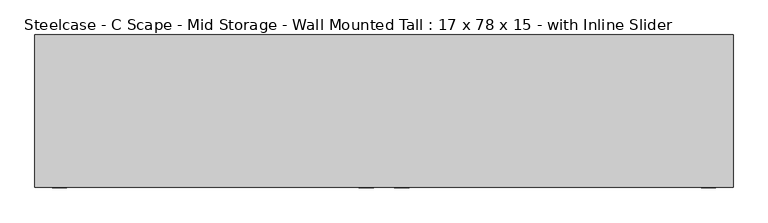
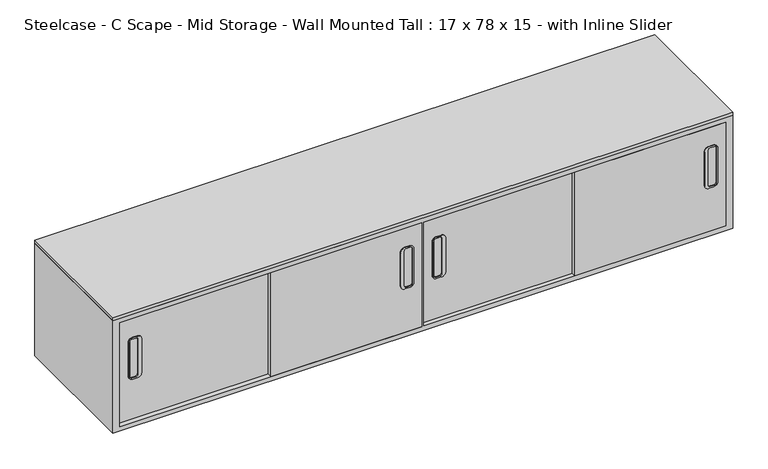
"""IFC4 building model written with IfcOpenShell, lengths in millimetres: furniture geometry, Steelcase - C Scape - Mid Storage - Wall Mounted Tall : 17 x 78 x 15 - with Inline Slider."""

from ifc_helpers import new_model, si_unit, point, frame, frame_2d, origin, place, context, project, spatial, polyline, circle_curve, trimmed, segment, composite_curve, outline, extrude, faceted_brep, source, transform, mapped, element, save


def steelcase_c_scape_mid_storage_wall_mounted_tall_17_x_78_x_15_fe53f72d(model_context):
    return source(origin(), model_context, "Body", "SolidModel", [
        extrude(outline(polyline([(1981.2, 215.9), (1981.2, -215.9), (0.0, -215.9), (0.0, 215.9), (1981.2, 215.9)])), frame((0.0, 0.0, 1219.2), z_axis=(0.0, 0.0, 1.0), x_axis=(1.0, 0.0, 0.0)), (0.0, 0.0, 1.0), 10.16),
        extrude(outline(composite_curve([segment(trimmed(circle_curve(frame_2d((1127.3282327, 1918.8177615)), 13.716), [point((1127.3282327, 1932.5337615))], [point((1141.0442327, 1918.8177615))], False, "CARTESIAN"), True, "CONTINUOUS"), segment(polyline([(1141.0442327, 1918.8177615), (1141.0442327, 1903.8701355)]), True, "CONTINUOUS"), segment(trimmed(circle_curve(frame_2d((1127.4168582, 1903.8701355)), 13.6273746), [point((1141.0442327, 1903.8701355))], [point((1127.4168582, 1890.2427609))], False, "CARTESIAN"), True, "CONTINUOUS"), segment(polyline([(1127.4168582, 1890.2427609), (1015.0601843, 1890.2427609)]), True, "CONTINUOUS"), segment(trimmed(circle_curve(frame_2d((1015.0601843, 1903.9587609)), 13.716), [point((1015.0601843, 1890.2427609))], [point((1001.3441843, 1903.9587609))], False, "CARTESIAN"), True, "CONTINUOUS"), segment(polyline([(1001.3441843, 1903.9587609), (1001.3441843, 1918.8177615)]), True, "CONTINUOUS"), segment(trimmed(circle_curve(frame_2d((1015.0601843, 1918.8177615)), 13.716), [point((1001.3441843, 1918.8177615))], [point((1015.0601843, 1932.5337615))], False, "CARTESIAN"), True, "CONTINUOUS"), segment(polyline([(1015.0601843, 1932.5337615), (1127.3282327, 1932.5337615)]), True, "CONTINUOUS")], self_intersect=False), holes=[composite_curve([segment(trimmed(circle_curve(frame_2d((1012.5201979, 1921.3577615)), 6.35), [point((1012.5201979, 1927.7077615))], [point((1006.1701979, 1921.3577615))], True, "CARTESIAN"), True, "CONTINUOUS"), segment(polyline([(1006.1701979, 1921.3577615), (1006.1701979, 1908.6577676)]), True, "CONTINUOUS"), segment(trimmed(circle_curve(frame_2d((1012.5201979, 1908.6577676)), 6.35), [point((1006.1701979, 1908.6577676))], [point((1012.5201979, 1902.3077676))], True, "CARTESIAN"), True, "CONTINUOUS"), segment(polyline([(1012.5201979, 1902.3077676), (1129.8682192, 1902.3077676)]), True, "CONTINUOUS"), segment(trimmed(circle_curve(frame_2d((1129.8682192, 1908.6577676)), 6.35), [point((1129.8682192, 1902.3077676))], [point((1136.2182192, 1908.6577676))], True, "CARTESIAN"), True, "CONTINUOUS"), segment(polyline([(1136.2182192, 1908.6577676), (1136.2182192, 1921.3577615)]), True, "CONTINUOUS"), segment(trimmed(circle_curve(frame_2d((1129.8682192, 1921.3577615)), 6.35), [point((1136.2182192, 1921.3577615))], [point((1129.8682192, 1927.7077615))], True, "CARTESIAN"), True, "CONTINUOUS"), segment(polyline([(1129.8682192, 1927.7077615), (1012.5201979, 1927.7077615)]), True, "CONTINUOUS")], self_intersect=False)]), frame((0.0, -218.44, 0.0), z_axis=(0.0, 1.0, 0.0), x_axis=(0.0, 0.0, 1.0)), (0.0, 0.0, 1.0), 2.54),
        extrude(outline(composite_curve([segment(polyline([(1127.3282327, 1020.3432385), (1015.0601843, 1020.3432385)]), True, "CONTINUOUS"), segment(trimmed(circle_curve(frame_2d((1015.0601843, 1034.0592385)), 13.716), [point((1015.0601843, 1020.3432385))], [point((1001.3441843, 1034.0592385))], False, "CARTESIAN"), True, "CONTINUOUS"), segment(polyline([(1001.3441843, 1034.0592385), (1001.3441843, 1048.9182391)]), True, "CONTINUOUS"), segment(trimmed(circle_curve(frame_2d((1015.0601843, 1048.9182391)), 13.716), [point((1001.3441843, 1048.9182391))], [point((1015.0601843, 1062.6342391))], False, "CARTESIAN"), True, "CONTINUOUS"), segment(polyline([(1015.0601843, 1062.6342391), (1127.4168582, 1062.6342391)]), True, "CONTINUOUS"), segment(trimmed(circle_curve(frame_2d((1127.4168582, 1049.0068645)), 13.6273746), [point((1127.4168582, 1062.6342391))], [point((1141.0442327, 1049.0068645))], False, "CARTESIAN"), True, "CONTINUOUS"), segment(polyline([(1141.0442327, 1049.0068645), (1141.0442327, 1034.0592385)]), True, "CONTINUOUS"), segment(trimmed(circle_curve(frame_2d((1127.3282327, 1034.0592385)), 13.716), [point((1141.0442327, 1034.0592385))], [point((1127.3282327, 1020.3432385))], False, "CARTESIAN"), True, "CONTINUOUS")], self_intersect=False), holes=[composite_curve([segment(polyline([(1012.5201979, 1025.1692385), (1129.8682192, 1025.1692385)]), True, "CONTINUOUS"), segment(trimmed(circle_curve(frame_2d((1129.8682192, 1031.5192385)), 6.35), [point((1129.8682192, 1025.1692385))], [point((1136.2182192, 1031.5192385))], True, "CARTESIAN"), True, "CONTINUOUS"), segment(polyline([(1136.2182192, 1031.5192385), (1136.2182192, 1044.2192324)]), True, "CONTINUOUS"), segment(trimmed(circle_curve(frame_2d((1129.8682192, 1044.2192324)), 6.35), [point((1136.2182192, 1044.2192324))], [point((1129.8682192, 1050.5692324))], True, "CARTESIAN"), True, "CONTINUOUS"), segment(polyline([(1129.8682192, 1050.5692324), (1012.5201979, 1050.5692324)]), True, "CONTINUOUS"), segment(trimmed(circle_curve(frame_2d((1012.5201979, 1044.2192324)), 6.35), [point((1012.5201979, 1050.5692324))], [point((1006.1701979, 1044.2192324))], True, "CARTESIAN"), True, "CONTINUOUS"), segment(polyline([(1006.1701979, 1044.2192324), (1006.1701979, 1031.5192385)]), True, "CONTINUOUS"), segment(trimmed(circle_curve(frame_2d((1012.5201979, 1031.5192385)), 6.35), [point((1006.1701979, 1031.5192385))], [point((1012.5201979, 1025.1692385))], True, "CARTESIAN"), True, "CONTINUOUS")], self_intersect=False)]), frame((0.0, -218.44, 0.0), z_axis=(0.0, 1.0, 0.0), x_axis=(0.0, 0.0, 1.0)), (0.0, 0.0, 1.0), 2.54),
        extrude(outline(composite_curve([segment(trimmed(circle_curve(frame_2d((1127.3282327, 947.1407615)), 13.716), [point((1127.3282327, 960.8567615))], [point((1141.0442327, 947.1407615))], False, "CARTESIAN"), True, "CONTINUOUS"), segment(polyline([(1141.0442327, 947.1407615), (1141.0442327, 932.1931355)]), True, "CONTINUOUS"), segment(trimmed(circle_curve(frame_2d((1127.4168582, 932.1931355)), 13.6273746), [point((1141.0442327, 932.1931355))], [point((1127.4168582, 918.5657609))], False, "CARTESIAN"), True, "CONTINUOUS"), segment(polyline([(1127.4168582, 918.5657609), (1015.0601843, 918.5657609)]), True, "CONTINUOUS"), segment(trimmed(circle_curve(frame_2d((1015.0601843, 932.2817609)), 13.716), [point((1015.0601843, 918.5657609))], [point((1001.3441843, 932.2817609))], False, "CARTESIAN"), True, "CONTINUOUS"), segment(polyline([(1001.3441843, 932.2817609), (1001.3441843, 947.1407615)]), True, "CONTINUOUS"), segment(trimmed(circle_curve(frame_2d((1015.0601843, 947.1407615)), 13.716), [point((1001.3441843, 947.1407615))], [point((1015.0601843, 960.8567615))], False, "CARTESIAN"), True, "CONTINUOUS"), segment(polyline([(1015.0601843, 960.8567615), (1127.3282327, 960.8567615)]), True, "CONTINUOUS")], self_intersect=False), holes=[composite_curve([segment(trimmed(circle_curve(frame_2d((1012.5201979, 949.6807615)), 6.35), [point((1012.5201979, 956.0307615))], [point((1006.1701979, 949.6807615))], True, "CARTESIAN"), True, "CONTINUOUS"), segment(polyline([(1006.1701979, 949.6807615), (1006.1701979, 936.9807676)]), True, "CONTINUOUS"), segment(trimmed(circle_curve(frame_2d((1012.5201979, 936.9807676)), 6.35), [point((1006.1701979, 936.9807676))], [point((1012.5201979, 930.6307676))], True, "CARTESIAN"), True, "CONTINUOUS"), segment(polyline([(1012.5201979, 930.6307676), (1129.8682192, 930.6307676)]), True, "CONTINUOUS"), segment(trimmed(circle_curve(frame_2d((1129.8682192, 936.9807676)), 6.35), [point((1129.8682192, 930.6307676))], [point((1136.2182192, 936.9807676))], True, "CARTESIAN"), True, "CONTINUOUS"), segment(polyline([(1136.2182192, 936.9807676), (1136.2182192, 949.6807615)]), True, "CONTINUOUS"), segment(trimmed(circle_curve(frame_2d((1129.8682192, 949.6807615)), 6.35), [point((1136.2182192, 949.6807615))], [point((1129.8682192, 956.0307615))], True, "CARTESIAN"), True, "CONTINUOUS"), segment(polyline([(1129.8682192, 956.0307615), (1012.5201979, 956.0307615)]), True, "CONTINUOUS")], self_intersect=False)]), frame((0.0, -218.44, 0.0), z_axis=(0.0, 1.0, 0.0), x_axis=(0.0, 0.0, 1.0)), (0.0, 0.0, 1.0), 2.54),
        extrude(outline(composite_curve([segment(polyline([(1127.3282327, 48.5394019), (1015.0601843, 48.5394019)]), True, "CONTINUOUS"), segment(trimmed(circle_curve(frame_2d((1015.0601843, 62.2554019)), 13.716), [point((1015.0601843, 48.5394019))], [point((1001.3441843, 62.2554019))], False, "CARTESIAN"), True, "CONTINUOUS"), segment(polyline([(1001.3441843, 62.2554019), (1001.3441843, 77.1144024)]), True, "CONTINUOUS"), segment(trimmed(circle_curve(frame_2d((1015.0601843, 77.1144024)), 13.716), [point((1001.3441843, 77.1144024))], [point((1015.0601843, 90.8304024))], False, "CARTESIAN"), True, "CONTINUOUS"), segment(polyline([(1015.0601843, 90.8304024), (1127.4168582, 90.8304024)]), True, "CONTINUOUS"), segment(trimmed(circle_curve(frame_2d((1127.4168582, 77.2030278)), 13.6273746), [point((1127.4168582, 90.8304024))], [point((1141.0442327, 77.2030278))], False, "CARTESIAN"), True, "CONTINUOUS"), segment(polyline([(1141.0442327, 77.2030278), (1141.0442327, 62.2554019)]), True, "CONTINUOUS"), segment(trimmed(circle_curve(frame_2d((1127.3282327, 62.2554019)), 13.716), [point((1141.0442327, 62.2554019))], [point((1127.3282327, 48.5394019))], False, "CARTESIAN"), True, "CONTINUOUS")], self_intersect=False), holes=[composite_curve([segment(polyline([(1012.5201979, 53.3654018), (1129.8682192, 53.3654018)]), True, "CONTINUOUS"), segment(trimmed(circle_curve(frame_2d((1129.8682192, 59.7154018)), 6.35), [point((1129.8682192, 53.3654018))], [point((1136.2182192, 59.7154018))], True, "CARTESIAN"), True, "CONTINUOUS"), segment(polyline([(1136.2182192, 59.7154018), (1136.2182192, 72.4153957)]), True, "CONTINUOUS"), segment(trimmed(circle_curve(frame_2d((1129.8682192, 72.4153957)), 6.35), [point((1136.2182192, 72.4153957))], [point((1129.8682192, 78.7653957))], True, "CARTESIAN"), True, "CONTINUOUS"), segment(polyline([(1129.8682192, 78.7653957), (1012.5201979, 78.7653957)]), True, "CONTINUOUS"), segment(trimmed(circle_curve(frame_2d((1012.5201979, 72.4153957)), 6.35), [point((1012.5201979, 78.7653957))], [point((1006.1701979, 72.4153957))], True, "CARTESIAN"), True, "CONTINUOUS"), segment(polyline([(1006.1701979, 72.4153957), (1006.1701979, 59.7154018)]), True, "CONTINUOUS"), segment(trimmed(circle_curve(frame_2d((1012.5201979, 59.7154018)), 6.35), [point((1006.1701979, 59.7154018))], [point((1012.5201979, 53.3654018))], True, "CARTESIAN"), True, "CONTINUOUS")], self_intersect=False)]), frame((0.0, -218.44, 0.0), z_axis=(0.0, 1.0, 0.0), x_axis=(0.0, 0.0, 1.0)), (0.0, 0.0, 1.0), 2.54),
        extrude(outline(polyline([(504.6980817, -201.5235519), (21.9711633, -201.5235519), (21.9711633, -187.1471039), (504.6980817, -187.1471039), (504.6980817, -201.5235519)])), frame((0.0, 0.0, 853.4399855), z_axis=(0.0, 0.0, 1.0), x_axis=(1.0, 0.0, 0.0)), (0.0, 0.0, 1.0), 350.5200145),
        extrude(outline(polyline([(987.425, -215.9), (504.6980817, -215.9), (504.6980817, -201.5235519), (987.425, -201.5235519), (987.425, -215.9)])), frame((0.0, 0.0, 853.4399855), z_axis=(0.0, 0.0, 1.0), x_axis=(1.0, 0.0, 0.0)), (0.0, 0.0, 1.0), 350.5200145),
        extrude(outline(polyline([(1959.102, -215.9), (1476.4385, -215.9), (1476.4385, -201.5235519), (1959.102, -201.5235519), (1959.102, -215.9)])), frame((0.0, 0.0, 853.4399855), z_axis=(0.0, 0.0, 1.0), x_axis=(1.0, 0.0, 0.0)), (0.0, 0.0, 1.0), 350.5200145),
        extrude(outline(polyline([(1476.4385, -201.5235519), (993.775, -201.5235519), (993.775, -187.1471039), (1476.4385, -187.1471039), (1476.4385, -201.5235519)])), frame((0.0, 0.0, 853.4399855), z_axis=(0.0, 0.0, 1.0), x_axis=(1.0, 0.0, 0.0)), (0.0, 0.0, 1.0), 350.5200145),
        faceted_brep([(0.0, -215.9, 1219.2), (0.0, -215.9, 838.2), (1981.2, -215.9, 838.2), (1981.2, -215.9, 1219.2), (21.9711633, -215.9, 1203.96), (987.425, -215.9, 1203.96), (987.425, -215.9, 853.4399855), (21.9711633, -215.9, 853.4399855), (1959.102, -215.9, 1203.96), (1959.102, -215.9, 853.4399855), (993.775, -215.9, 853.4399855), (993.775, -215.9, 1203.96), (1981.2, 215.9, 1219.2), (1981.2, 215.9, 838.2), (0.0, 215.9, 838.2), (0.0, 215.9, 1219.2), (1959.102, 206.3755809, 1203.96), (1959.102, 206.3755809, 853.4399855), (987.425, 206.3755809, 853.4399855), (21.9711633, 206.3755809, 853.4399855), (993.775, 206.3755809, 853.4399855), (21.9711633, 206.3755809, 1203.96), (987.425, 206.3755809, 1203.96), (993.775, 206.3755809, 1203.96)], [[[0, 1, 2, 3], [4, 5, 6, 7], [8, 9, 10, 11]], [[12, 13, 14, 15]], [[0, 3, 12, 15]], [[1, 0, 15, 14]], [[2, 1, 14, 13]], [[3, 2, 13, 12]], [[9, 8, 16, 17]], [[7, 6, 18, 19]], [[10, 9, 17, 20]], [[4, 7, 19, 21]], [[5, 4, 21, 22]], [[8, 11, 23, 16]], [[18, 22, 21, 19]], [[6, 5, 22, 18]], [[11, 10, 20, 23]], [[23, 20, 17, 16]]]),
    ])


if __name__ == "__main__":
    model = new_model("IFC4")
    model_context = context("Model", 3, world=origin())
    ifc_project = project(units=[si_unit("LENGTHUNIT", "METRE", prefix="MILLI")], contexts=[model_context])
    site = spatial("IfcSite", under=ifc_project)
    building = spatial("IfcBuilding", under=site)
    placement = place(None, origin())
    steelcase_c_scape_mid_storage_wall_mounted_tall_17_x_78_x_15_shape = steelcase_c_scape_mid_storage_wall_mounted_tall_17_x_78_x_15_fe53f72d(model_context)
    element("IfcFurniture", 1, ObjectType="Steelcase - C Scape - Mid Storage - Wall Mounted Tall : 17 x 78 x 15 - with Inline Slider", at=placement, inside=building, context=model_context, shape_type="MappedRepresentation", body=[
        mapped(steelcase_c_scape_mid_storage_wall_mounted_tall_17_x_78_x_15_shape, transform((0.0, 0.0, 0.0), x_axis=(1.0, 0.0, 0.0), y_axis=(0.0, 1.0, 0.0), z_axis=(0.0, 0.0, 1.0))),
    ])
    save(model, "model.ifc")
